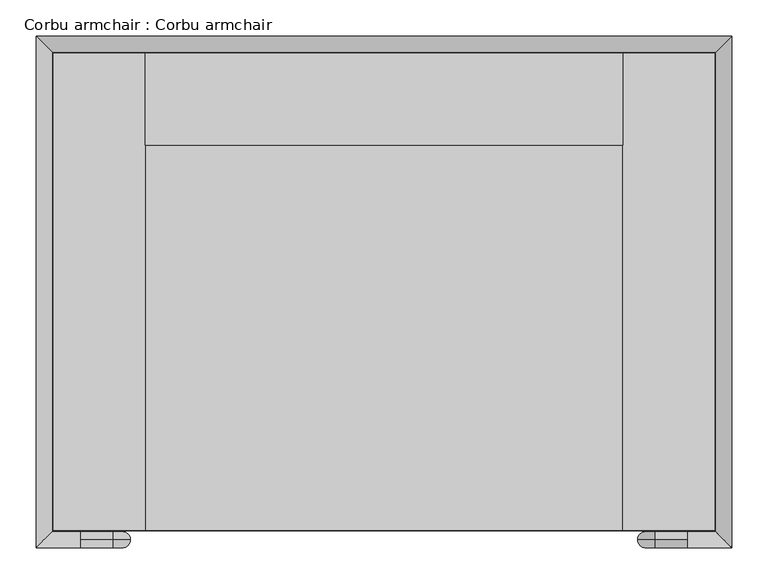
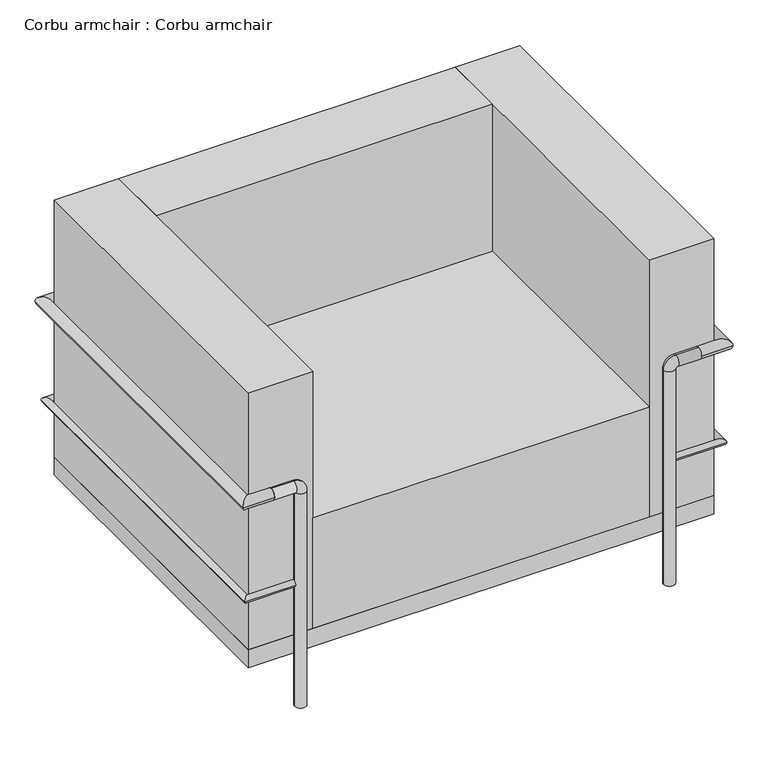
"""IFC4 building model written with IfcOpenShell, lengths in millimetres: furniture geometry, Corbu armchair : Corbu armchair."""

from ifc_helpers import new_model, si_unit, point, frame, frame_2d, origin, origin_with_axes, place, context, project, spatial, polyline, circle_curve, ellipse_curve, trimmed, segment, composite_curve, outline, extrude, source, transform, mapped, element, save
from ifc_brep_helpers import plane_surface, cylinder_surface, revolved_surface, advanced_brep


def corbu_armchair_corbu_armchair_d35303aa(model_context):
    return source(origin(), model_context, "Body", "SolidModel", [
        extrude(outline(composite_curve([segment(trimmed(circle_curve(frame_2d((211.4237705, 809.6770492)), 11.1125), [point((200.3112705, 809.6770492))], [point((222.5362705, 809.6770492))], False, "CARTESIAN"), True, "CONTINUOUS"), segment(trimmed(circle_curve(frame_2d((211.4237705, 809.6770492)), 11.1125), [point((222.5362705, 809.6770492))], [point((200.3112705, 809.6770492))], False, "CARTESIAN"), True, "CONTINUOUS")], self_intersect=False)), origin_with_axes(), (0.0, 0.0, 1.0), 457.2),
        extrude(outline(composite_curve([segment(trimmed(circle_curve(frame_2d((935.3237705, 809.6770492)), 11.1125), [point((946.4362705, 809.6770492))], [point((924.2112705, 809.6770492))], False, "CARTESIAN"), True, "CONTINUOUS"), segment(trimmed(circle_curve(frame_2d((935.3237705, 809.6770492)), 11.1125), [point((924.2112705, 809.6770492))], [point((946.4362705, 809.6770492))], False, "CARTESIAN"), True, "CONTINUOUS")], self_intersect=False)), origin_with_axes(), (0.0, 0.0, 1.0), 457.2),
        advanced_brep(
        [(946.4362705, 123.8770492, 0.0), (924.2112705, 123.8770492, 0.0), (946.4362705, 123.8770492, 444.5), (924.2112705, 123.8770492, 444.5), (948.0237705, 123.8770492, 468.3125), (948.0237705, 123.8770492, 446.0875), (992.4737705, 123.8770492, 446.0875), (992.4737705, 123.8770492, 468.3125)],
        [
            (0, 1, circle_curve(frame((935.3237705, 123.8770492, 0.0), z_axis=(0.0, 0.0, -1.0), x_axis=(-1.0, 0.0, 0.0)), 11.1125)),
            (1, 0, circle_curve(frame((935.3237705, 123.8770492, 0.0), z_axis=(0.0, 0.0, -1.0), x_axis=(-1.0, 0.0, 0.0)), 11.1125)),
            (0, 2),
            (2, 3, circle_curve(frame((935.3237705, 123.8770492, 444.5), z_axis=(0.0, 0.0, -1.0), x_axis=(-1.0, 0.0, 0.0)), 11.1125)),
            (3, 1),
            (3, 2, circle_curve(frame((935.3237705, 123.8770492, 444.5), z_axis=(0.0, 0.0, -1.0), x_axis=(-1.0, 0.0, 0.0)), 11.1125)),
            (4, 3, circle_curve(frame((948.0237705, 123.8770492, 444.5), z_axis=(0.0, -1.0, 0.0), x_axis=(-1.0, 0.0, 0.0)), 23.8125)),
            (2, 5, circle_curve(frame((948.0237705, 123.8770492, 444.5), z_axis=(0.0, 1.0, 0.0), x_axis=(-1.0, 0.0, 0.0)), 1.5875)),
            (5, 4, circle_curve(frame((948.0237705, 123.8770492, 457.2), z_axis=(-1.0, 0.0, 0.0), x_axis=(0.0, 0.0, 1.0)), 11.1125)),
            (4, 5, circle_curve(frame((948.0237705, 123.8770492, 457.2), z_axis=(-1.0, 0.0, 0.0), x_axis=(0.0, 0.0, 1.0)), 11.1125)),
            (6, 7, circle_curve(frame((992.4737705, 123.8770492, 457.2), z_axis=(1.0, 0.0, 0.0), x_axis=(0.0, 0.0, 1.0)), 11.1125)),
            (7, 6, circle_curve(frame((992.4737705, 123.8770492, 457.2), z_axis=(1.0, 0.0, 0.0), x_axis=(0.0, 0.0, 1.0)), 11.1125)),
            (5, 6),
            (7, 4),
        ],
        [
            plane_surface(frame((935.3237705, 112.7645492, 0.0), z_axis=(0.0, 0.0, -1.0), x_axis=(1.0, 0.0, 0.0))),
            cylinder_surface(frame((935.3237705, 123.8770492, 0.0), z_axis=(0.0, 0.0, -1.0), x_axis=(-1.0, 0.0, 0.0)), 11.1125),
            revolved_surface(trimmed(ellipse_curve(frame((935.3237705, 123.8770492, 444.5), z_axis=(0.0, 0.0, -1.0), x_axis=(-1.0, 0.0, 0.0)), 11.1125, 11.1125), [point((946.4362705, 123.8770492, 444.5))], [point((924.2112705, 123.8770492, 444.5))], True, "CARTESIAN"), (948.0237705, 123.8770492, 444.5), (0.0, 1.0, 0.0)),
            revolved_surface(trimmed(ellipse_curve(frame((935.3237705, 123.8770492, 444.5), z_axis=(0.0, 0.0, -1.0), x_axis=(-1.0, 0.0, 0.0)), 11.1125, 11.1125), [point((924.2112705, 123.8770492, 444.5))], [point((946.4362705, 123.8770492, 444.5))], True, "CARTESIAN"), (948.0237705, 123.8770492, 444.5), (0.0, 1.0, 0.0)),
            plane_surface(frame((992.4737705, 123.8770492, 446.0875), z_axis=(1.0, 0.0, 0.0), x_axis=(0.0, 1.0, 0.0))),
            cylinder_surface(frame((948.0237705, 123.8770492, 457.2), z_axis=(-1.0, 0.0, 0.0), x_axis=(0.0, 0.0, 1.0)), 11.1125),
        ],
        [
            (0, [[1, 2]]),
            (1, [[-1, 3, 4, 5]]),
            (1, [[-2, -5, 6, -3]]),
            (2, [[7, -4, 8, 9]]),
            (3, [[-8, -6, -7, 10]]),
            (4, [[11, 12]]),
            (5, [[-9, 13, -12, 14]]),
            (5, [[-10, -14, -11, -13]]),
        ],
    ),
        advanced_brep(
        [(222.5362705, 123.8770492, 0.0), (200.3112705, 123.8770492, 0.0), (222.5362705, 123.8770492, 444.5), (200.3112705, 123.8770492, 444.5), (198.7237705, 123.8770492, 446.0875), (198.7237705, 123.8770492, 468.3125), (154.2737705, 123.8770492, 468.3125), (154.2737705, 123.8770492, 446.0875)],
        [
            (0, 1, circle_curve(frame((211.4237705, 123.8770492, 0.0), z_axis=(0.0, 0.0, -1.0), x_axis=(-1.0, 0.0, 0.0)), 11.1125)),
            (1, 0, circle_curve(frame((211.4237705, 123.8770492, 0.0), z_axis=(0.0, 0.0, -1.0), x_axis=(-1.0, 0.0, 0.0)), 11.1125)),
            (0, 2),
            (2, 3, circle_curve(frame((211.4237705, 123.8770492, 444.5), z_axis=(0.0, 0.0, -1.0), x_axis=(-1.0, 0.0, 0.0)), 11.1125)),
            (3, 1),
            (3, 2, circle_curve(frame((211.4237705, 123.8770492, 444.5), z_axis=(0.0, 0.0, -1.0), x_axis=(-1.0, 0.0, 0.0)), 11.1125)),
            (4, 3, circle_curve(frame((198.7237705, 123.8770492, 444.5), z_axis=(0.0, 1.0, 0.0), x_axis=(1.0, 0.0, 0.0)), 1.5875)),
            (2, 5, circle_curve(frame((198.7237705, 123.8770492, 444.5), z_axis=(0.0, -1.0, 0.0), x_axis=(1.0, 0.0, 0.0)), 23.8125)),
            (5, 4, circle_curve(frame((198.7237705, 123.8770492, 457.2), z_axis=(1.0, 0.0, 0.0), x_axis=(0.0, 0.0, -1.0)), 11.1125)),
            (4, 5, circle_curve(frame((198.7237705, 123.8770492, 457.2), z_axis=(1.0, 0.0, 0.0), x_axis=(0.0, 0.0, -1.0)), 11.1125)),
            (6, 7, circle_curve(frame((154.2737705, 123.8770492, 457.2), z_axis=(-1.0, 0.0, 0.0), x_axis=(0.0, 0.0, -1.0)), 11.1125)),
            (7, 6, circle_curve(frame((154.2737705, 123.8770492, 457.2), z_axis=(-1.0, 0.0, 0.0), x_axis=(0.0, 0.0, -1.0)), 11.1125)),
            (5, 6),
            (7, 4),
        ],
        [
            plane_surface(frame((211.4237705, 112.7645492, 0.0), z_axis=(0.0, 0.0, -1.0), x_axis=(1.0, 0.0, 0.0))),
            cylinder_surface(frame((211.4237705, 123.8770492, 0.0), z_axis=(0.0, 0.0, -1.0), x_axis=(-1.0, 0.0, 0.0)), 11.1125),
            revolved_surface(trimmed(ellipse_curve(frame((211.4237705, 123.8770492, 444.5), z_axis=(0.0, 0.0, -1.0), x_axis=(-1.0, 0.0, 0.0)), 11.1125, 11.1125), [point((222.5362705, 123.8770492, 444.5))], [point((200.3112705, 123.8770492, 444.5))], True, "CARTESIAN"), (198.7237705, 123.8770492, 444.5), (0.0, -1.0, 0.0)),
            revolved_surface(trimmed(ellipse_curve(frame((211.4237705, 123.8770492, 444.5), z_axis=(0.0, 0.0, -1.0), x_axis=(-1.0, 0.0, 0.0)), 11.1125, 11.1125), [point((200.3112705, 123.8770492, 444.5))], [point((222.5362705, 123.8770492, 444.5))], True, "CARTESIAN"), (198.7237705, 123.8770492, 444.5), (0.0, -1.0, 0.0)),
            plane_surface(frame((154.2737705, 123.8770492, 446.0875), z_axis=(-1.0, 0.0, 0.0), x_axis=(0.0, -1.0, 0.0))),
            cylinder_surface(frame((198.7237705, 123.8770492, 457.2), z_axis=(1.0, 0.0, 0.0), x_axis=(0.0, 0.0, -1.0)), 11.1125),
        ],
        [
            (0, [[1, 2]]),
            (1, [[-1, 3, 4, 5]]),
            (1, [[-2, -5, 6, -3]]),
            (2, [[7, -4, 8, 9]]),
            (3, [[-8, -6, -7, 10]]),
            (4, [[11, 12]]),
            (5, [[-9, 13, -12, 14]]),
            (5, [[-10, -14, -11, -13]]),
        ],
    ),
        advanced_brep(
        [(201.8987705, 133.4020492, 254.0), (201.8987705, 120.7020492, 254.0), (112.9987705, 133.4020492, 254.0), (100.2987705, 120.7020492, 254.0), (112.9987705, 800.1520492, 254.0), (100.2987705, 812.8520492, 254.0), (1033.7487705, 800.1520492, 254.0), (1046.4487705, 812.8520492, 254.0), (1033.7487705, 133.4020492, 254.0), (1046.4487705, 120.7020492, 254.0), (944.8487705, 133.4020492, 254.0), (944.8487705, 120.7020492, 254.0)],
        [
            (0, 1, circle_curve(frame((201.8987705, 127.0520492, 254.0), z_axis=(1.0, 0.0, 0.0), x_axis=(0.0, -1.0, 0.0)), 6.35)),
            (1, 0, circle_curve(frame((201.8987705, 127.0520492, 254.0), z_axis=(1.0, 0.0, 0.0), x_axis=(0.0, -1.0, 0.0)), 6.35)),
            (0, 2),
            (2, 3, ellipse_curve(frame((106.6487705, 127.0520492, 254.0), z_axis=(0.7071067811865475, -0.7071067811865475, 0.0), x_axis=(0.7071067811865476, 0.7071067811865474, 0.0)), 8.9802561, 6.35)),
            (3, 1),
            (3, 2, ellipse_curve(frame((106.6487705, 127.0520492, 254.0), z_axis=(0.7071067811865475, -0.7071067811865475, 0.0), x_axis=(0.7071067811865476, 0.7071067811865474, 0.0)), 8.9802561, 6.35)),
            (2, 4),
            (4, 5, ellipse_curve(frame((106.6487705, 806.5020492, 254.0), z_axis=(-0.7071067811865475, -0.7071067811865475, 0.0), x_axis=(0.7071067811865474, -0.7071067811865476, 0.0)), 8.9802561, 6.35)),
            (5, 3),
            (5, 4, ellipse_curve(frame((106.6487705, 806.5020492, 254.0), z_axis=(-0.7071067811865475, -0.7071067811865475, 0.0), x_axis=(0.7071067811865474, -0.7071067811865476, 0.0)), 8.9802561, 6.35)),
            (4, 6),
            (6, 7, ellipse_curve(frame((1040.0987705, 806.5020492, 254.0), z_axis=(-0.7071067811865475, 0.7071067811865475, 0.0), x_axis=(-0.7071067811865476, -0.7071067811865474, 0.0)), 8.9802561, 6.35)),
            (7, 5),
            (7, 6, ellipse_curve(frame((1040.0987705, 806.5020492, 254.0), z_axis=(-0.7071067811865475, 0.7071067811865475, 0.0), x_axis=(-0.7071067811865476, -0.7071067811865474, 0.0)), 8.9802561, 6.35)),
            (6, 8),
            (8, 9, ellipse_curve(frame((1040.0987705, 127.0520492, 254.0), z_axis=(0.7071067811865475, 0.7071067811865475, 0.0), x_axis=(-0.7071067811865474, 0.7071067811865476, 0.0)), 8.9802561, 6.35)),
            (9, 7),
            (9, 8, ellipse_curve(frame((1040.0987705, 127.0520492, 254.0), z_axis=(0.7071067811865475, 0.7071067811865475, 0.0), x_axis=(-0.7071067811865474, 0.7071067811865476, 0.0)), 8.9802561, 6.35)),
            (10, 11, circle_curve(frame((944.8487705, 127.0520492, 254.0), z_axis=(-1.0, 0.0, 0.0), x_axis=(0.0, -1.0, 0.0)), 6.35)),
            (11, 10, circle_curve(frame((944.8487705, 127.0520492, 254.0), z_axis=(-1.0, 0.0, 0.0), x_axis=(0.0, -1.0, 0.0)), 6.35)),
            (8, 10),
            (11, 9),
        ],
        [
            plane_surface(frame((201.8987705, 127.0520492, -259.5186838), z_axis=(1.0, 0.0, 0.0), x_axis=(0.0, -1.0, 0.0))),
            cylinder_surface(frame((201.8987705, 127.0520492, 254.0), z_axis=(1.0, 0.0, 0.0), x_axis=(0.0, -1.0, 0.0)), 6.35),
            cylinder_surface(frame((106.6487705, 127.0520492, 254.0), z_axis=(0.0, -1.0, 0.0), x_axis=(-1.0, 0.0, 0.0)), 6.35),
            cylinder_surface(frame((106.6487705, 806.5020492, 254.0), z_axis=(-0.9999999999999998, 0.0, 0.0), x_axis=(0.0, 0.9999999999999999, 0.0)), 6.35),
            cylinder_surface(frame((1040.0987705, 806.5020492, 254.0), z_axis=(0.0, 1.0, 0.0), x_axis=(1.0, 0.0, 0.0)), 6.35),
            plane_surface(frame((944.8487705, 127.0520492, -259.5186838), z_axis=(-1.0, 0.0, 0.0), x_axis=(0.0, -1.0, 0.0))),
            cylinder_surface(frame((1040.0987705, 127.0520492, 254.0), z_axis=(1.0, 0.0, 0.0), x_axis=(0.0, -1.0, 0.0)), 6.35),
        ],
        [
            (0, [[1, 2]]),
            (1, [[-1, 3, 4, 5]]),
            (1, [[-2, -5, 6, -3]]),
            (2, [[-4, 7, 8, 9]]),
            (2, [[-6, -9, 10, -7]]),
            (3, [[-8, 11, 12, 13]]),
            (3, [[-10, -13, 14, -11]]),
            (4, [[-12, 15, 16, 17]]),
            (4, [[-14, -17, 18, -15]]),
            (5, [[19, 20]]),
            (6, [[-16, 21, -20, 22]]),
            (6, [[-18, -22, -19, -21]]),
        ],
    ),
        advanced_brep(
        [(154.2737705, 134.9895492, 457.2), (154.2737705, 112.7645492, 457.2), (114.5862705, 134.9895492, 457.2), (92.3612705, 112.7645492, 457.2), (114.5862705, 798.5645492, 457.2), (92.3612705, 820.7895492, 457.2), (1032.1612705, 798.5645492, 457.2), (1054.3862705, 820.7895492, 457.2), (1032.1612705, 134.9895492, 457.2), (1054.3862705, 112.7645492, 457.2), (992.4737705, 134.9895492, 457.2), (992.4737705, 112.7645492, 457.2)],
        [
            (0, 1, circle_curve(frame((154.2737705, 123.8770492, 457.2), z_axis=(1.0, 0.0, 0.0), x_axis=(0.0, -1.0, 0.0)), 11.1125)),
            (1, 0, circle_curve(frame((154.2737705, 123.8770492, 457.2), z_axis=(1.0, 0.0, 0.0), x_axis=(0.0, -1.0, 0.0)), 11.1125)),
            (0, 2),
            (2, 3, ellipse_curve(frame((103.4737705, 123.8770492, 457.2), z_axis=(0.7071067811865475, -0.7071067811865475, 0.0), x_axis=(0.7071067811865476, 0.7071067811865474, 0.0)), 15.7154482, 11.1125)),
            (3, 1),
            (3, 2, ellipse_curve(frame((103.4737705, 123.8770492, 457.2), z_axis=(0.7071067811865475, -0.7071067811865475, 0.0), x_axis=(0.7071067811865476, 0.7071067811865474, 0.0)), 15.7154482, 11.1125)),
            (2, 4),
            (4, 5, ellipse_curve(frame((103.4737705, 809.6770492, 457.2), z_axis=(-0.7071067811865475, -0.7071067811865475, 0.0), x_axis=(0.7071067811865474, -0.7071067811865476, 0.0)), 15.7154482, 11.1125)),
            (5, 3),
            (5, 4, ellipse_curve(frame((103.4737705, 809.6770492, 457.2), z_axis=(-0.7071067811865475, -0.7071067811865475, 0.0), x_axis=(0.7071067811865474, -0.7071067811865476, 0.0)), 15.7154482, 11.1125)),
            (4, 6),
            (6, 7, ellipse_curve(frame((1043.2737705, 809.6770492, 457.2), z_axis=(-0.7071067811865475, 0.7071067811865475, 0.0), x_axis=(-0.7071067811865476, -0.7071067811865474, 0.0)), 15.7154482, 11.1125)),
            (7, 5),
            (7, 6, ellipse_curve(frame((1043.2737705, 809.6770492, 457.2), z_axis=(-0.7071067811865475, 0.7071067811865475, 0.0), x_axis=(-0.7071067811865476, -0.7071067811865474, 0.0)), 15.7154482, 11.1125)),
            (6, 8),
            (8, 9, ellipse_curve(frame((1043.2737705, 123.8770492, 457.2), z_axis=(0.7071067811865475, 0.7071067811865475, 0.0), x_axis=(-0.7071067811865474, 0.7071067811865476, 0.0)), 15.7154482, 11.1125)),
            (9, 7),
            (9, 8, ellipse_curve(frame((1043.2737705, 123.8770492, 457.2), z_axis=(0.7071067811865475, 0.7071067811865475, 0.0), x_axis=(-0.7071067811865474, 0.7071067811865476, 0.0)), 15.7154482, 11.1125)),
            (10, 11, circle_curve(frame((992.4737705, 123.8770492, 457.2), z_axis=(-1.0, 0.0, 0.0), x_axis=(0.0, -1.0, 0.0)), 11.1125)),
            (11, 10, circle_curve(frame((992.4737705, 123.8770492, 457.2), z_axis=(-1.0, 0.0, 0.0), x_axis=(0.0, -1.0, 0.0)), 11.1125)),
            (8, 10),
            (11, 9),
        ],
        [
            plane_surface(frame((154.2737705, 123.8770492, -466.8567721), z_axis=(1.0, 0.0, 0.0), x_axis=(0.0, -1.0, 0.0))),
            cylinder_surface(frame((154.2737705, 123.8770492, 457.2), z_axis=(1.0, 0.0, 0.0), x_axis=(0.0, -1.0, 0.0)), 11.1125),
            cylinder_surface(frame((103.4737705, 123.8770492, 457.2), z_axis=(0.0, -1.0, 0.0), x_axis=(-1.0, 0.0, 0.0)), 11.1125),
            cylinder_surface(frame((103.4737705, 809.6770492, 457.2), z_axis=(-1.0, 0.0, 0.0), x_axis=(0.0, 1.0, 0.0)), 11.1125),
            cylinder_surface(frame((1043.2737705, 809.6770492, 457.2), z_axis=(0.0, 1.0, 0.0), x_axis=(1.0, 0.0, 0.0)), 11.1125),
            plane_surface(frame((992.4737705, 123.8770492, -466.8567721), z_axis=(-1.0, 0.0, 0.0), x_axis=(0.0, -1.0, 0.0))),
            cylinder_surface(frame((1043.2737705, 123.8770492, 457.2), z_axis=(1.0, 0.0, 0.0), x_axis=(0.0, -1.0, 0.0)), 11.1125),
        ],
        [
            (0, [[1, 2]]),
            (1, [[-1, 3, 4, 5]]),
            (1, [[-2, -5, 6, -3]]),
            (2, [[-4, 7, 8, 9]]),
            (2, [[-6, -9, 10, -7]]),
            (3, [[-8, 11, 12, 13]]),
            (3, [[-10, -13, 14, -11]]),
            (4, [[-12, 15, 16, 17]]),
            (4, [[-14, -17, 18, -15]]),
            (5, [[19, 20]]),
            (6, [[-16, 21, -20, 22]]),
            (6, [[-18, -22, -19, -21]]),
        ],
    ),
        extrude(outline(polyline([(903.5737705, 796.9770492), (903.5737705, 669.9770492), (243.1737705, 669.9770492), (243.1737705, 796.9770492), (903.5737705, 796.9770492)])), frame((0.0, 0.0, 139.7), z_axis=(0.0, 0.0, 1.0), x_axis=(1.0, 0.0, 0.0)), (0.0, 0.0, 1.0), 533.4),
        extrude(outline(polyline([(903.5737705, 669.9770492), (903.5737705, 136.5770492), (243.1737705, 136.5770492), (243.1737705, 669.9770492), (903.5737705, 669.9770492)])), frame((0.0, 0.0, 139.7), z_axis=(0.0, 0.0, 1.0), x_axis=(1.0, 0.0, 0.0)), (0.0, 0.0, 1.0), 228.6),
        extrude(outline(polyline([(243.1737705, 796.9770492), (243.1737705, 136.5770492), (116.1737705, 136.5770492), (116.1737705, 796.9770492), (243.1737705, 796.9770492)])), frame((0.0, 0.0, 139.7), z_axis=(0.0, 0.0, 1.0), x_axis=(1.0, 0.0, 0.0)), (0.0, 0.0, 1.0), 533.4),
        extrude(outline(polyline([(1030.5737705, 796.9770492), (1030.5737705, 136.5770492), (903.5737705, 136.5770492), (903.5737705, 796.9770492), (1030.5737705, 796.9770492)])), frame((0.0, 0.0, 139.7), z_axis=(0.0, 0.0, 1.0), x_axis=(1.0, 0.0, 0.0)), (0.0, 0.0, 1.0), 533.4),
        extrude(outline(polyline([(1030.5737705, 796.9770492), (1030.5737705, 136.5770492), (116.1737705, 136.5770492), (116.1737705, 796.9770492), (1030.5737705, 796.9770492)])), frame((0.0, 0.0, 101.6), z_axis=(0.0, 0.0, 1.0), x_axis=(1.0, 0.0, 0.0)), (0.0, 0.0, 1.0), 38.1),
    ])


if __name__ == "__main__":
    model = new_model("IFC4")
    model_context = context("Model", 3, world=origin())
    ifc_project = project(units=[si_unit("LENGTHUNIT", "METRE", prefix="MILLI")], contexts=[model_context])
    site = spatial("IfcSite", under=ifc_project)
    building = spatial("IfcBuilding", under=site)
    placement = place(None, origin())
    corbu_armchair_corbu_armchair_shape = corbu_armchair_corbu_armchair_d35303aa(model_context)
    element("IfcFurniture", 1, ObjectType="Corbu armchair : Corbu armchair", at=placement, inside=building, context=model_context, shape_type="MappedRepresentation", body=[
        mapped(corbu_armchair_corbu_armchair_shape, transform((0.0, 0.0, 0.0), x_axis=(1.0, 0.0, 0.0), y_axis=(0.0, 1.0, 0.0), z_axis=(0.0, 0.0, 1.0))),
    ])
    save(model, "model.ifc")
